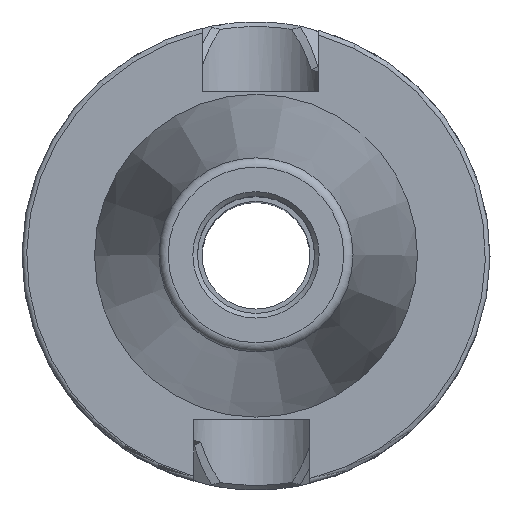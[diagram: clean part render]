
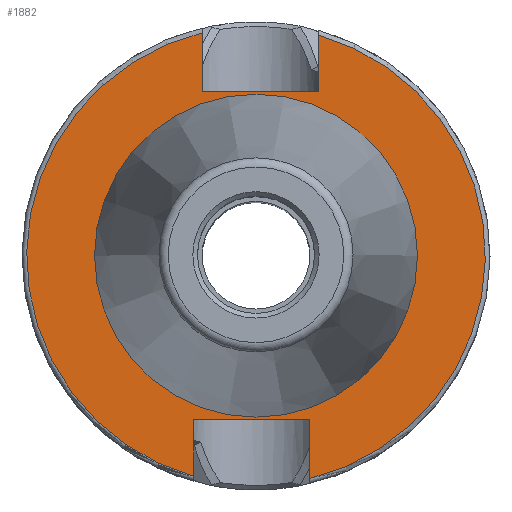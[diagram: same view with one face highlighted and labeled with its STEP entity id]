
A CAD part, top view. The second image highlights one B-rep face of the part: STEP entity #1882.
In plain terms, the highlighted planar face has unit normal (0, 0, 1).
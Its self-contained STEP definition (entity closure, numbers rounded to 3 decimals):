
#44=FACE_BOUND('',#324,.T.);
#71=CIRCLE('',#2043,49.);
#72=CIRCLE('',#2044,49.);
#73=CIRCLE('',#2045,34.25);
#74=CIRCLE('',#2046,34.25);
#224=FACE_OUTER_BOUND('',#323,.T.);
#323=EDGE_LOOP('',(#1347,#1348,#1349,#1350,#1351,#1352,#1353,#1354));
#324=EDGE_LOOP('',(#1355,#1356));
#514=LINE('',#3057,#607);
#524=LINE('',#3392,#617);
#528=LINE('',#3436,#621);
#530=LINE('',#3439,#623);
#531=LINE('',#3444,#624);
#532=LINE('',#3445,#625);
#607=VECTOR('',#2239,10.);
#617=VECTOR('',#2275,10.);
#621=VECTOR('',#2285,10.);
#623=VECTOR('',#2289,10.);
#624=VECTOR('',#2294,10.);
#625=VECTOR('',#2295,10.);
#722=VERTEX_POINT('',#3045);
#723=VERTEX_POINT('',#3056);
#754=VERTEX_POINT('',#3389);
#755=VERTEX_POINT('',#3391);
#762=VERTEX_POINT('',#3424);
#763=VERTEX_POINT('',#3435);
#764=VERTEX_POINT('',#3441);
#765=VERTEX_POINT('',#3443);
#766=VERTEX_POINT('',#3447);
#767=VERTEX_POINT('',#3448);
#942=EDGE_CURVE('',#723,#722,#514,.T.);
#986=EDGE_CURVE('',#755,#754,#524,.T.);
#996=EDGE_CURVE('',#763,#762,#528,.T.);
#998=EDGE_CURVE('',#754,#763,#530,.T.);
#999=EDGE_CURVE('',#764,#762,#71,.T.);
#1000=EDGE_CURVE('',#764,#765,#531,.T.);
#1001=EDGE_CURVE('',#765,#723,#532,.T.);
#1002=EDGE_CURVE('',#755,#722,#72,.T.);
#1003=EDGE_CURVE('',#766,#767,#73,.T.);
#1004=EDGE_CURVE('',#767,#766,#74,.T.);
#1347=ORIENTED_EDGE('',*,*,#986,.T.);
#1348=ORIENTED_EDGE('',*,*,#998,.T.);
#1349=ORIENTED_EDGE('',*,*,#996,.T.);
#1350=ORIENTED_EDGE('',*,*,#999,.F.);
#1351=ORIENTED_EDGE('',*,*,#1000,.T.);
#1352=ORIENTED_EDGE('',*,*,#1001,.T.);
#1353=ORIENTED_EDGE('',*,*,#942,.T.);
#1354=ORIENTED_EDGE('',*,*,#1002,.F.);
#1355=ORIENTED_EDGE('',*,*,#1003,.F.);
#1356=ORIENTED_EDGE('',*,*,#1004,.F.);
#1825=PLANE('',#2042);
#1882=ADVANCED_FACE('',(#224,#44),#1825,.T.);
#2042=AXIS2_PLACEMENT_3D('',#3440,#2290,#2291);
#2043=AXIS2_PLACEMENT_3D('',#3442,#2292,#2293);
#2044=AXIS2_PLACEMENT_3D('',#3446,#2296,#2297);
#2045=AXIS2_PLACEMENT_3D('',#3449,#2298,#2299);
#2046=AXIS2_PLACEMENT_3D('',#3450,#2300,#2301);
#2239=DIRECTION('',(0.,-1.,0.));
#2275=DIRECTION('',(0.,-1.,0.));
#2285=DIRECTION('',(0.,1.,0.));
#2289=DIRECTION('',(-1.,0.,0.));
#2290=DIRECTION('center_axis',(0.,0.,1.));
#2291=DIRECTION('ref_axis',(1.,0.,0.));
#2292=DIRECTION('center_axis',(0.,0.,-1.));
#2293=DIRECTION('ref_axis',(-1.,0.,0.));
#2294=DIRECTION('',(0.,1.,0.));
#2295=DIRECTION('',(1.,0.,0.));
#2296=DIRECTION('center_axis',(0.,0.,-1.));
#2297=DIRECTION('ref_axis',(-1.,0.,0.));
#2298=DIRECTION('center_axis',(0.,0.,1.));
#2299=DIRECTION('ref_axis',(1.,0.,0.));
#2300=DIRECTION('center_axis',(0.,0.,1.));
#2301=DIRECTION('ref_axis',(1.,0.,0.));
#3045=CARTESIAN_POINT('',(11.5,-47.631,-106.));
#3056=CARTESIAN_POINT('',(11.5,-35.,-106.));
#3057=CARTESIAN_POINT('',(11.5,-25.,-106.));
#3389=CARTESIAN_POINT('',(13.35,35.,-106.));
#3391=CARTESIAN_POINT('',(13.35,47.146,-106.));
#3392=CARTESIAN_POINT('',(13.35,25.,-106.));
#3424=CARTESIAN_POINT('',(-11.5,47.631,-106.));
#3435=CARTESIAN_POINT('',(-11.5,35.,-106.));
#3436=CARTESIAN_POINT('',(-11.5,25.,-106.));
#3439=CARTESIAN_POINT('',(17.588,35.,-106.));
#3440=CARTESIAN_POINT('Origin',(34.25,0.,-106.));
#3441=CARTESIAN_POINT('',(-13.35,-47.146,-106.));
#3442=CARTESIAN_POINT('Origin',(0.,0.,-106.));
#3443=CARTESIAN_POINT('',(-13.35,-35.,-106.));
#3444=CARTESIAN_POINT('',(-13.35,-25.,-106.));
#3445=CARTESIAN_POINT('',(16.663,-35.,-106.));
#3446=CARTESIAN_POINT('Origin',(0.,0.,-106.));
#3447=CARTESIAN_POINT('',(34.25,0.,-106.));
#3448=CARTESIAN_POINT('',(-34.25,0.,-106.));
#3449=CARTESIAN_POINT('Origin',(0.,0.,-106.));
#3450=CARTESIAN_POINT('Origin',(0.,0.,-106.));
